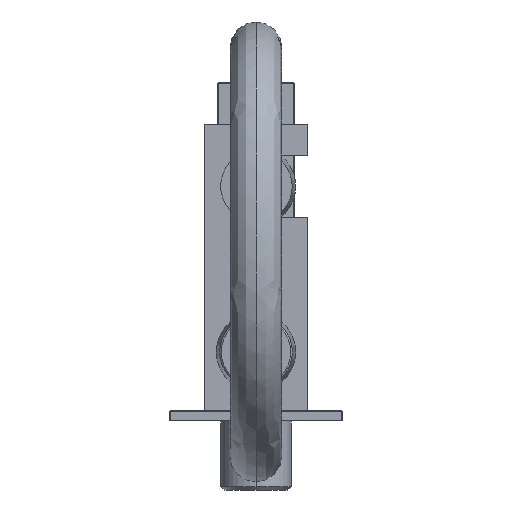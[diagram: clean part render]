
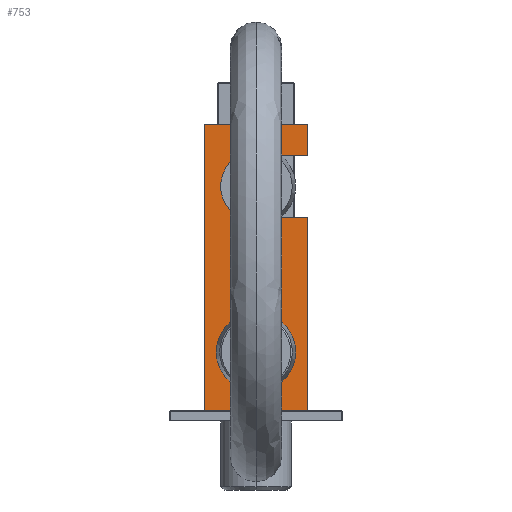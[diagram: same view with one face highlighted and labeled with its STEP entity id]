
A CAD part, front view. The second image highlights one B-rep face of the part: STEP entity #753.
In plain terms, the highlighted planar face has unit normal (0, -1, 0).
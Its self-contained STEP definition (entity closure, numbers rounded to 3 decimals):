
#102=DIRECTION('',(1.,0.,0.));
#103=VECTOR('',#102,30.);
#104=CARTESIAN_POINT('',(-15.,-15.,3.));
#105=LINE('',#104,#103);
#150=DIRECTION('',(-1.,0.,0.));
#151=VECTOR('',#150,10.095);
#152=CARTESIAN_POINT('',(15.,-15.,77.));
#153=LINE('',#152,#151);
#154=DIRECTION('',(-1.,0.,0.));
#155=VECTOR('',#154,10.095);
#156=CARTESIAN_POINT('',(15.,-15.,59.));
#157=LINE('',#156,#155);
#158=DIRECTION('',(0.,0.,1.));
#159=VECTOR('',#158,83.);
#160=CARTESIAN_POINT('',(-15.,-15.,3.));
#161=LINE('',#160,#159);
#162=CARTESIAN_POINT('',(0.,-15.,20.));
#163=DIRECTION('',(0.,1.,0.));
#164=DIRECTION('',(0.,0.,1.));
#165=AXIS2_PLACEMENT_3D('',#162,#163,#164);
#167=CARTESIAN_POINT('',(0.,-15.,20.));
#168=DIRECTION('',(0.,1.,0.));
#169=DIRECTION('',(0.,0.,-1.));
#170=AXIS2_PLACEMENT_3D('',#167,#168,#169);
#184=CARTESIAN_POINT('',(0.,-15.,68.));
#185=DIRECTION('',(0.,1.,0.));
#186=DIRECTION('',(0.479,0.,-0.878));
#187=AXIS2_PLACEMENT_3D('',#184,#185,#186);
#200=DIRECTION('',(0.,0.,1.));
#201=VECTOR('',#200,9.);
#202=CARTESIAN_POINT('',(15.,-15.,77.));
#203=LINE('',#202,#201);
#208=DIRECTION('',(0.,0.,1.));
#209=VECTOR('',#208,56.);
#210=CARTESIAN_POINT('',(15.,-15.,3.));
#211=LINE('',#210,#209);
#224=DIRECTION('',(1.,0.,0.));
#225=VECTOR('',#224,30.);
#226=CARTESIAN_POINT('',(-15.,-15.,86.));
#227=LINE('',#226,#225);
#404=CARTESIAN_POINT('',(-15.,-15.,86.));
#406=VERTEX_POINT('',#404);
#407=CARTESIAN_POINT('',(15.,-15.,86.));
#408=VERTEX_POINT('',#407);
#412=CARTESIAN_POINT('',(-15.,-15.,3.));
#414=VERTEX_POINT('',#412);
#415=CARTESIAN_POINT('',(15.,-15.,3.));
#416=VERTEX_POINT('',#415);
#431=CARTESIAN_POINT('',(15.,-15.,77.));
#432=CARTESIAN_POINT('',(4.905,-15.,77.));
#433=VERTEX_POINT('',#431);
#434=VERTEX_POINT('',#432);
#435=CARTESIAN_POINT('',(15.,-15.,59.));
#436=CARTESIAN_POINT('',(4.905,-15.,59.));
#437=VERTEX_POINT('',#435);
#438=VERTEX_POINT('',#436);
#491=CARTESIAN_POINT('',(0.,-15.,28.));
#492=CARTESIAN_POINT('',(0.,-15.,12.));
#493=VERTEX_POINT('',#491);
#494=VERTEX_POINT('',#492);
#727=CARTESIAN_POINT('',(-15.,-15.,3.));
#728=DIRECTION('',(0.,-1.,0.));
#729=DIRECTION('',(1.,0.,0.));
#730=AXIS2_PLACEMENT_3D('',#727,#728,#729);
#731=PLANE('',#730);
#732=ORIENTED_EDGE('',*,*,#717,.T.);
#734=ORIENTED_EDGE('',*,*,#733,.F.);
#736=ORIENTED_EDGE('',*,*,#735,.F.);
#738=ORIENTED_EDGE('',*,*,#737,.F.);
#739=ORIENTED_EDGE('',*,*,#666,.F.);
#740=ORIENTED_EDGE('',*,*,#685,.T.);
#742=ORIENTED_EDGE('',*,*,#741,.T.);
#744=ORIENTED_EDGE('',*,*,#743,.F.);
#745=EDGE_LOOP('',(#732,#734,#736,#738,#739,#740,#742,#744));
#746=FACE_OUTER_BOUND('',#745,.F.);
#748=ORIENTED_EDGE('',*,*,#747,.F.);
#750=ORIENTED_EDGE('',*,*,#749,.F.);
#751=EDGE_LOOP('',(#748,#750));
#752=FACE_BOUND('',#751,.F.);
#753=ADVANCED_FACE('',(#746,#752),#731,.T.);
#166=CIRCLE('',#165,8.);
#171=CIRCLE('',#170,8.);
#188=CIRCLE('',#187,10.25);
#666=EDGE_CURVE('',#414,#416,#105,.T.);
#685=EDGE_CURVE('',#414,#406,#161,.T.);
#717=EDGE_CURVE('',#433,#434,#153,.T.);
#733=EDGE_CURVE('',#438,#434,#188,.T.);
#735=EDGE_CURVE('',#437,#438,#157,.T.);
#737=EDGE_CURVE('',#416,#437,#211,.T.);
#741=EDGE_CURVE('',#406,#408,#227,.T.);
#743=EDGE_CURVE('',#433,#408,#203,.T.);
#747=EDGE_CURVE('',#493,#494,#166,.T.);
#749=EDGE_CURVE('',#494,#493,#171,.T.);
